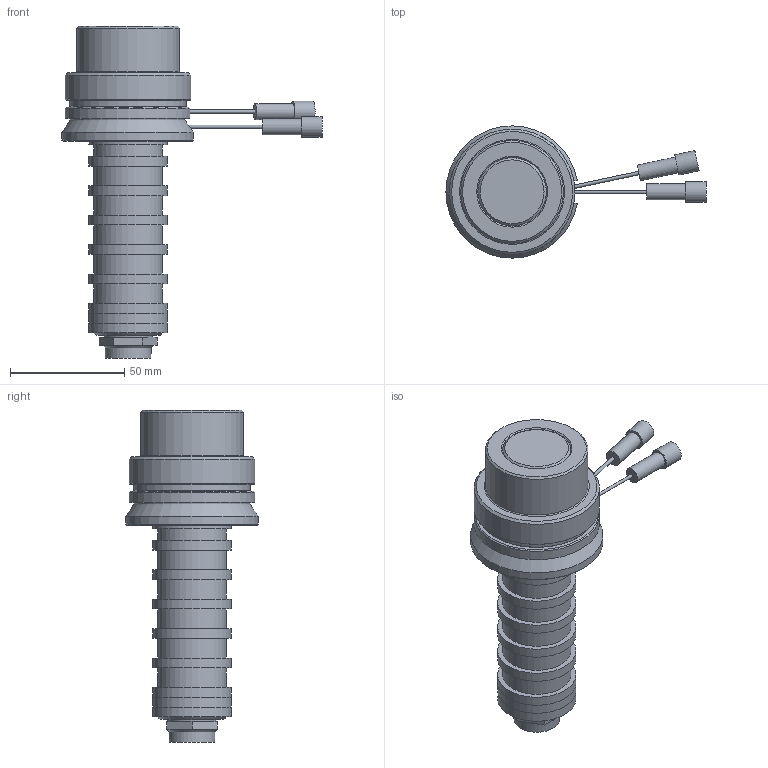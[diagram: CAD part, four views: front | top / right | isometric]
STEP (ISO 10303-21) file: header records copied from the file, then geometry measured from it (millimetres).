
FILE_DESCRIPTION(('STEP AP214'),'1');
FILE_NAME('FLS10-C.stp','2018-06-12T08:24:13',(' '),(' '),'Spatial InterOp 3D',' ',' ');
FILE_SCHEMA(('AUTOMOTIVE_DESIGN { 1 0 10303 214 1 1 1 1 }'));
Length unit declared in the file: millimetre
Products named in the file (1): 1
Bounding box: 114 x 58 x 145.5 mm (x, y, z)
Volume: 169332.8 mm3; surface area: 39319 mm2
Topology: 2 solids, 2 shells, 130 faces, 270 edges, 164 vertices
Faces by surface type: plane 66, cylinder 44, cone 12, revolution 4, torus 3, sphere 1
Full cylindrical faces by diameter (mm): 1.4 x1, 1.5 x2, 7 x2, 9 x2, 30 x8, 34.4 x16, 36 x1, 45 x1, 51 x1, 55 x1
Entity records: 4256 total; most frequent: CARTESIAN_POINT 653, DIRECTION 561, ORIENTED_EDGE 418, AXIS2_PLACEMENT_3D 237, EDGE_CURVE 209, EDGE_LOOP 202, FACE_OUTER_BOUND 170, VERTEX_POINT 153
